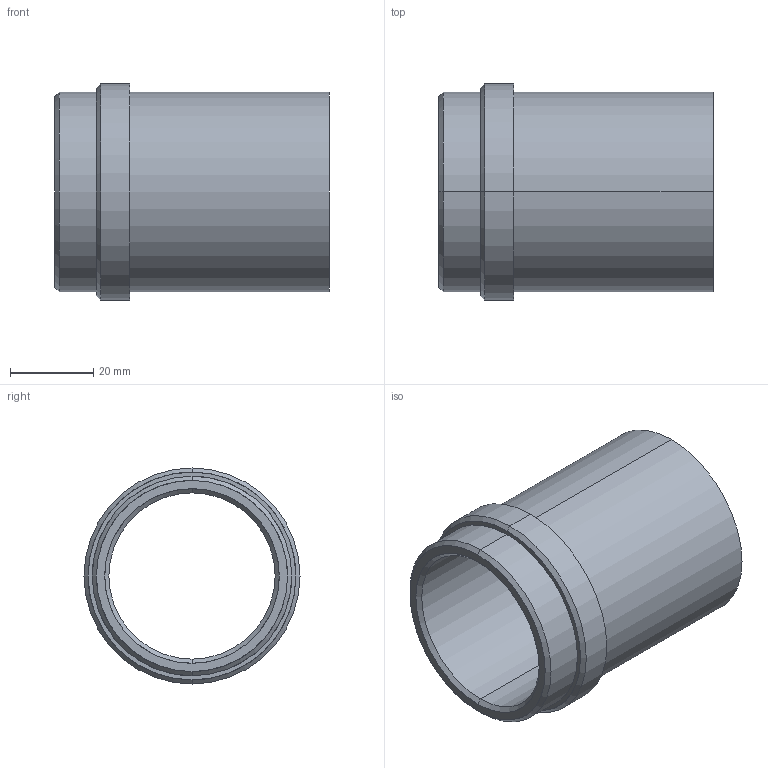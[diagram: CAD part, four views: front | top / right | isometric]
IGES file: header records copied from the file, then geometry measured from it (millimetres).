
Start section: START RECORD GO HERE.
Global section: file name: 358-40x66.igs; native system: DASSAULT SYSTEMES CATIA V5 R20 - www.3ds.com; preprocessor: CATIA Version 5 Release 20 ; author: Utente; organization: NB04-ASUS; date: 20210409.165600; units: millimetre
Bounding box: 66 x 52 x 52 mm (x, y, z)
Surface area: 19716 mm2 (no closed solid volume)
Topology: 0 solids, 0 shells, 20 faces, 128 edges, 128 vertices
Faces by surface type: revolution 16, plane 4
